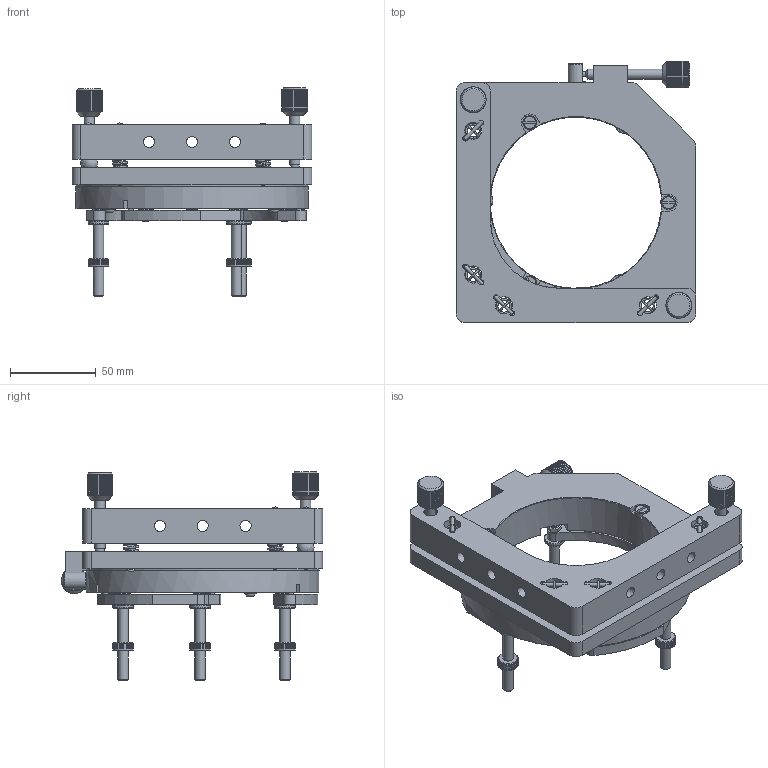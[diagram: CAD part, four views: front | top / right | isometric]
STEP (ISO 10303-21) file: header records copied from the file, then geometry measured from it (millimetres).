
FILE_DESCRIPTION(/* description */ (''),/* implementation_level */ '2;1');
FILE_NAME(/* name */ 'U:\KONSTRUKTORIAI\! ! ! BENDRAS ! ! !\Darius\Darius\Schemos\05\5BAM-1\step\5AM-100.stp',/* time_stamp */ '2016-03-18T09:56:01+02:00',/* author */ ('dsgn33'),/* organization */ (''),/* preprocessor_version */ 'ST-DEVELOPER v15.2',/* originating_system */ 'Autodesk Inventor 2014',/* authorisation */ '');
FILE_SCHEMA (('AUTOMOTIVE_DESIGN { 1 0 10303 214 3 1 1 }'));
Products named in the file (2): Part2; Assembly1
Bounding box: 140 x 152.5 x 121.5 mm (x, y, z)
Volume: 329739 mm3; surface area: 97996.5 mm2
Topology: 1 solids, 41 shells, 1886 faces, 4140 edges, 2360 vertices
Faces by surface type: plane 1477, cylinder 223, cone 144, torus 19, sphere 16, bspline 7
Full cylindrical faces by diameter (mm): 1 x8, 2 x8, 2.459 x7, 3 x17, 3.2 x3, 3.242 x2, 4 x11, 4.3 x3, 4.5 x5, 5 x12, 5.7 x3, 6 x13, 6.5 x6, 7 x10, 8 x5, 8.7 x2, 9 x3, 10 x12, 10.3 x2, 10.8 x2, 11 x6, 12 x9, 100 x1, 115.4 x1, 116 x1, 136 x2
Entity records: 56540 total; most frequent: CARTESIAN_POINT 17059, DIRECTION 8663, ORIENTED_EDGE 7414, EDGE_CURVE 3679, AXIS2_PLACEMENT_3D 3327, EDGE_LOOP 2393, VERTEX_POINT 2196, LINE 2009
